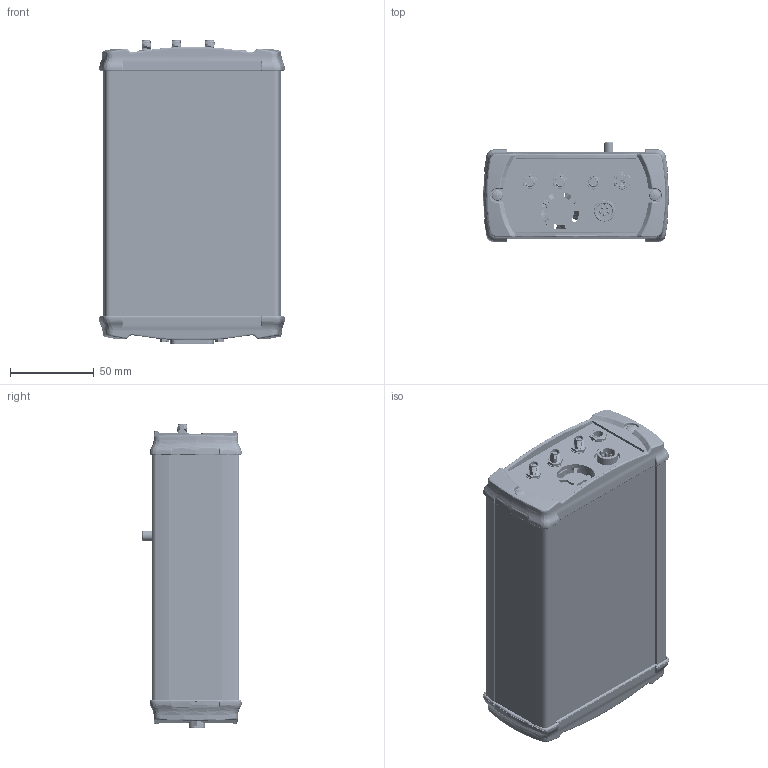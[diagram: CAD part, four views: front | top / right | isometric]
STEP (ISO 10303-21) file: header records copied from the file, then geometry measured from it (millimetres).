
FILE_DESCRIPTION (( 'STEP AP214' ), '1' );
FILE_NAME ('424.00.00.000-A01_QBY-BT.STEP', '2022-09-11T07:24:29', ( '' ), ( '' ), 'SwSTEP 2.0', 'SolidWorks 2018', '' );
FILE_SCHEMA (( 'AUTOMOTIVE_DESIGN' ));
Length unit declared in the file: millimetre
Products named in the file (39): Âòóëêà ðåçüá. íåïîëíîïðîõ. BSO-M3-8 ZI_BSO-M3-8-ZI; ﾘ琺矜 ﾌ3 DIN127; Ãàéêà UNC4-40 (2018); 424.00.01.101-A01_砑僔蠂縺; PCDminiC; ELPU 1050_1009053; 1003804; 羊铋赅 󉱭2 (971120324); 妈眚 󉱴 DIN912; Âèíò Ì2,5õ6 DIN965; Âèíò Ì2,5õ16 DIN965; ﾘ琺矜 ﾌ3 DIN125; FacePKbd_RGB15238730; 424.00.01.301-A01_砑鳧罻; ﾘ琺矜 ﾌ2,5 DIN125; 424.00.01.000-A01_鍛鍧 瀇僗; 424.00.01.200-01-A01_ﾊ煇鳫; 鎗鵻罻 KLS8-0114A-8; Ãàéêà Ì2,5 DIN934; ﾘ琺矜 UNC4-40 (2018); 424.00.01.201-01-A01_ﾊ煇鳫; 424.00.01.200-A01_ﾊ煇鳫; 424.00.01.300-A01_Ïëàíêà â ñáîðå; 424.00.00.001-A01_Êðûøêà ïåðåäíÿÿ; Øàéáà ïðóæèííàÿ UNC4-40 (2018); ﾘ琺矜 ﾌ2,5 DIN127; QBY_Rev.A; Ñòîéêà ðåçüáîâàÿ UNC4-40 (2018); SHR Z KA30X10 WN 1412 MG; DS1110-01-5M; 424.00.00.002-A01_Êðûøêà çàäíÿÿ; 424.00.01.100-A01_Ïàíåëü âåðõíÿÿ; Harting TB09692100033; Ãàéêà CN clinch nut M3; 妈眚 󉱭4 DIN912; CUI_DEVICES_C14D32P-A3P; CUI_DEVICES_CFM-2510B-0130-275; 424.00.01.201-A01_ﾊ煇鳫; 424.00.00.000-A01_QBY-BT
Assembly tree (107 placements, depth 4):
  424.00.00.000-A01_QBY-BT
    424.00.01.000-A01_鍛鍧 瀇僗
      424.00.01.100-A01_Ïàíåëü âåðõíÿÿ
        424.00.01.101-A01_砑僔蠂縺
        Âòóëêà ðåçüá. íåïîëíîïðîõ. BSO-M3-8 ZI_BSO-M3-8-ZI  x5
      424.00.01.200-A01_ﾊ煇鳫
        424.00.01.201-A01_ﾊ煇鳫
        Ãàéêà CN clinch nut M3  x2
      424.00.01.200-01-A01_ﾊ煇鳫
        424.00.01.201-01-A01_ﾊ煇鳫
        Ãàéêà CN clinch nut M3  x2
      424.00.01.300-A01_Ïëàíêà â ñáîðå
        424.00.01.301-A01_砑鳧罻
        CUI_DEVICES_CFM-2510B-0130-275
        ﾘ琺矜 ﾌ2,5 DIN125  x3
        ﾘ琺矜 ﾌ2,5 DIN127  x3
        Ãàéêà Ì2,5 DIN934  x3
        Âèíò Ì2,5õ16 DIN965  x3
        DS1110-01-5M
      PCDminiC
      CUI_DEVICES_C14D32P-A3P
      QBY_Rev.A
      羊铋赅 󉱭2 (971120324)  x4
      鎗鵻罻 KLS8-0114A-8  x4
      Âèíò Ì2,5õ6 DIN965  x4
      ﾘ琺矜 ﾌ2,5 DIN125  x4
      ﾘ琺矜 ﾌ2,5 DIN127  x4
      Ãàéêà Ì2,5 DIN934  x4
      ﾘ琺矜 ﾌ3 DIN125  x9
      ﾘ琺矜 ﾌ3 DIN127  x9
      妈眚 󉱭4 DIN912  x4
      妈眚 󉱴 DIN912  x5
    ELPU 1050_1009053
    424.00.00.001-A01_Êðûøêà ïåðåäíÿÿ
    424.00.00.002-A01_Êðûøêà çàäíÿÿ
    Harting TB09692100033
    Ñòîéêà ðåçüáîâàÿ UNC4-40 (2018)  x2
    ﾘ琺矜 UNC4-40 (2018)  x2
    Øàéáà ïðóæèííàÿ UNC4-40 (2018)  x2
    Ãàéêà UNC4-40 (2018)  x2
    FacePKbd_RGB15238730
    SHR Z KA30X10 WN 1412 MG  x4
    1003804  x4
Bounding box: 110.9 x 59.47 x 181.83 mm (x, y, z)
Volume: 182660.5 mm3; surface area: 288334.5 mm2
Topology: 115 solids, 2694 shells, 12802 faces, 44146 edges, 33776 vertices
Faces by surface type: plane 7783, cylinder 3104, bspline 770, cone 768, torus 332, sphere 45
Entity records: 605740 total; most frequent: CARTESIAN_POINT 160730, DIRECTION 62217, ORIENTED_EDGE 58566, EDGE_CURVE 40452, VERTEX_POINT 31527, LINE 27459, VECTOR 27459, AXIS2_PLACEMENT_3D 17379
